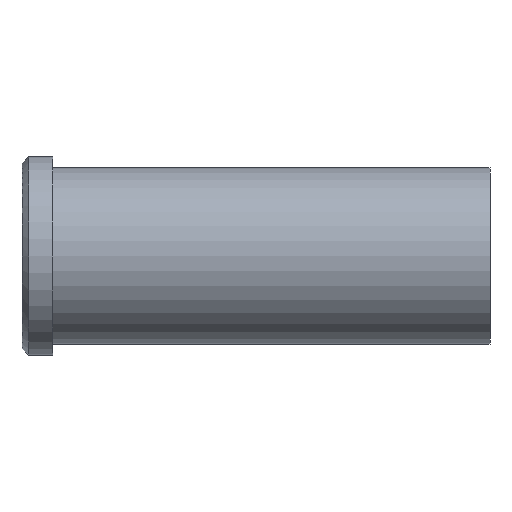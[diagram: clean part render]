
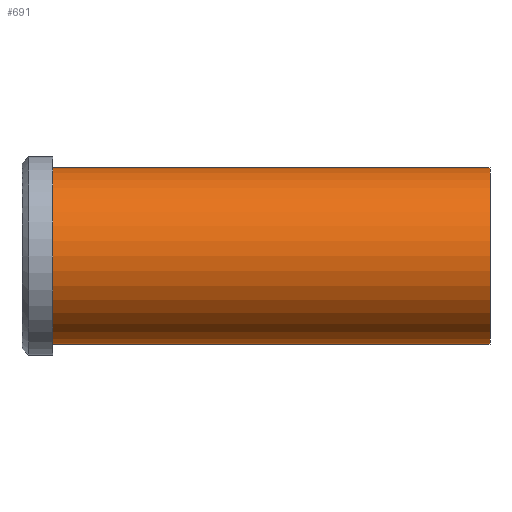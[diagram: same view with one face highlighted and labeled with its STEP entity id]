
A CAD part, front view. The second image highlights one B-rep face of the part: STEP entity #691.
In plain terms, the highlighted cylindrical face has radius 20 mm (diameter 40 mm), a partial arc.
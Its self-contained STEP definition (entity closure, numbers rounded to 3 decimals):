
#501=CARTESIAN_POINT('Vertex',(0.,0.,-20.)) ;
#506=CARTESIAN_POINT('Axis2P3D Location',(0.,0.,0.)) ;
#510=CARTESIAN_POINT('Vertex',(0.,-20.,0.)) ;
#513=CARTESIAN_POINT('Axis2P3D Location',(0.,0.,0.)) ;
#517=CARTESIAN_POINT('Vertex',(0.,0.,20.)) ;
#631=CARTESIAN_POINT('Line Origine',(99.,0.,20.)) ;
#635=CARTESIAN_POINT('Vertex',(99.,0.,20.)) ;
#649=CARTESIAN_POINT('Vertex',(99.,0.,-20.)) ;
#652=CARTESIAN_POINT('Line Origine',(99.,0.,-20.)) ;
#666=CARTESIAN_POINT('Axis2P3D Location',(99.,0.,0.)) ;
#671=CARTESIAN_POINT('Axis2P3D Location',(99.,0.,0.)) ;
#675=CARTESIAN_POINT('Vertex',(99.,-20.,0.)) ;
#678=CARTESIAN_POINT('Axis2P3D Location',(99.,0.,0.)) ;
#507=DIRECTION('Axis2P3D Direction',(1.,0.,-0.)) ;
#514=DIRECTION('Axis2P3D Direction',(1.,0.,-0.)) ;
#632=DIRECTION('Vector Direction',(-1.,0.,0.)) ;
#653=DIRECTION('Vector Direction',(-1.,0.,0.)) ;
#667=DIRECTION('Axis2P3D Direction',(-1.,-0.,-0.)) ;
#668=DIRECTION('Axis2P3D XDirection',(0.,0.,-1.)) ;
#672=DIRECTION('Axis2P3D Direction',(-1.,-0.,-0.)) ;
#679=DIRECTION('Axis2P3D Direction',(-1.,-0.,-0.)) ;
#508=AXIS2_PLACEMENT_3D('Circle Axis2P3D',#506,#507,$) ;
#515=AXIS2_PLACEMENT_3D('Circle Axis2P3D',#513,#514,$) ;
#669=AXIS2_PLACEMENT_3D('Cylinder Axis2P3D',#666,#667,#668) ;
#673=AXIS2_PLACEMENT_3D('Circle Axis2P3D',#671,#672,$) ;
#680=AXIS2_PLACEMENT_3D('Circle Axis2P3D',#678,#679,$) ;
#684=ORIENTED_EDGE('',*,*,#656,.T.) ;
#685=ORIENTED_EDGE('',*,*,#677,.F.) ;
#686=ORIENTED_EDGE('',*,*,#682,.F.) ;
#687=ORIENTED_EDGE('',*,*,#637,.T.) ;
#688=ORIENTED_EDGE('',*,*,#519,.T.) ;
#689=ORIENTED_EDGE('',*,*,#512,.T.) ;
#633=VECTOR('Line Direction',#632,1.) ;
#654=VECTOR('Line Direction',#653,1.) ;
#691=ADVANCED_FACE('353-32X106',(#690),#670,.T.) ;
#509=CIRCLE('generated circle',#508,20.) ;
#516=CIRCLE('generated circle',#515,20.) ;
#674=CIRCLE('generated circle',#673,20.) ;
#681=CIRCLE('generated circle',#680,20.) ;
#670=CYLINDRICAL_SURFACE('generated cylinder',#669,20.) ;
#512=EDGE_CURVE('',#511,#502,#509,.T.) ;
#519=EDGE_CURVE('',#518,#511,#516,.T.) ;
#637=EDGE_CURVE('',#636,#518,#634,.T.) ;
#656=EDGE_CURVE('',#502,#650,#655,.F.) ;
#677=EDGE_CURVE('',#676,#650,#674,.F.) ;
#682=EDGE_CURVE('',#636,#676,#681,.F.) ;
#683=EDGE_LOOP('',(#684,#685,#686,#687,#688,#689)) ;
#690=FACE_OUTER_BOUND('',#683,.T.) ;
#634=LINE('Line',#631,#633) ;
#655=LINE('Line',#652,#654) ;
#502=VERTEX_POINT('',#501) ;
#511=VERTEX_POINT('',#510) ;
#518=VERTEX_POINT('',#517) ;
#636=VERTEX_POINT('',#635) ;
#650=VERTEX_POINT('',#649) ;
#676=VERTEX_POINT('',#675) ;
